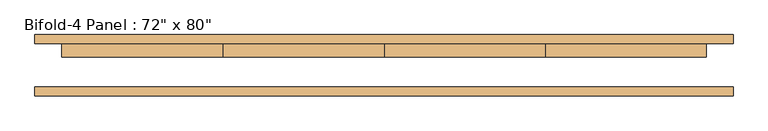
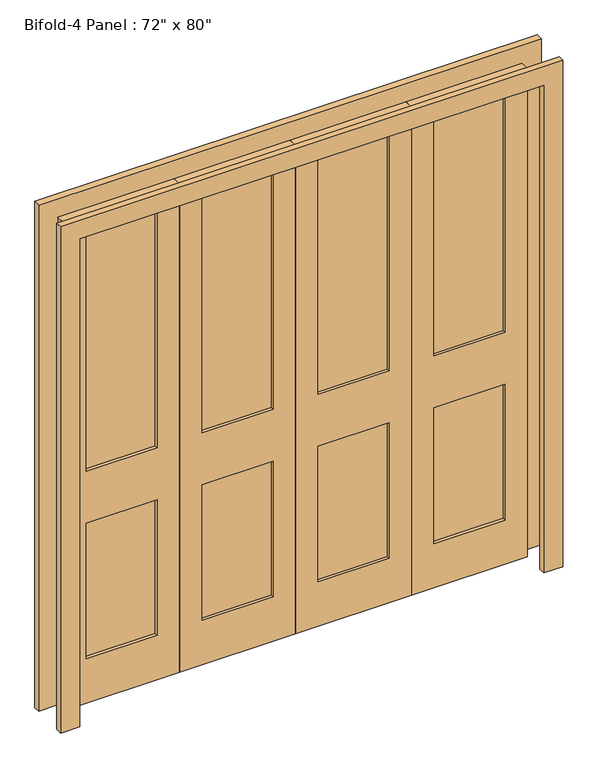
"""IFC4 building model written with IfcOpenShell, lengths in millimetres: door geometry."""

from ifc_helpers import new_model, si_unit, frame, origin, place, context, project, spatial, polyline, outline, extrude, source, transform, mapped, element, save


def door_c95ce901(model_context):
    return source(origin(), model_context, "Body", "SweptSolid", [
        extrude(outline(polyline([(546.1, 49.2125), (825.5, 49.2125), (825.5, 36.5125), (546.1, 36.5125), (546.1, 49.2125)])), frame((0.0, 0.0, 965.2), z_axis=(0.0, 0.0, 1.0), x_axis=(1.0, 0.0, 0.0)), (0.0, 0.0, 1.0), 984.25),
        extrude(outline(polyline([(546.1, 49.2125), (825.5, 49.2125), (825.5, 36.5125), (546.1, 36.5125), (546.1, 49.2125)])), frame((0.0, 0.0, 184.15), z_axis=(0.0, 0.0, 1.0), x_axis=(1.0, 0.0, 0.0)), (0.0, 0.0, 1.0), 565.15),
        extrude(outline(polyline([(88.9, 49.2125), (368.3, 49.2125), (368.3, 36.5125), (88.9, 36.5125), (88.9, 49.2125)])), frame((0.0, 0.0, 965.2), z_axis=(0.0, 0.0, 1.0), x_axis=(1.0, 0.0, 0.0)), (0.0, 0.0, 1.0), 984.25),
        extrude(outline(polyline([(88.9, 49.2125), (368.3, 49.2125), (368.3, 36.5125), (88.9, 36.5125), (88.9, 49.2125)])), frame((0.0, 0.0, 184.15), z_axis=(0.0, 0.0, 1.0), x_axis=(1.0, 0.0, 0.0)), (0.0, 0.0, 1.0), 565.15),
        extrude(outline(polyline([(-368.3, 49.2125), (-88.9, 49.2125), (-88.9, 36.5125), (-368.3, 36.5125), (-368.3, 49.2125)])), frame((0.0, 0.0, 184.15), z_axis=(0.0, 0.0, 1.0), x_axis=(1.0, 0.0, 0.0)), (0.0, 0.0, 1.0), 565.15),
        extrude(outline(polyline([(-368.3, 49.2125), (-88.9, 49.2125), (-88.9, 36.5125), (-368.3, 36.5125), (-368.3, 49.2125)])), frame((0.0, 0.0, 965.2), z_axis=(0.0, 0.0, 1.0), x_axis=(1.0, 0.0, 0.0)), (0.0, 0.0, 1.0), 984.25),
        extrude(outline(polyline([(-825.5, 49.2125), (-546.1, 49.2125), (-546.1, 36.5125), (-825.5, 36.5125), (-825.5, 49.2125)])), frame((0.0, 0.0, 965.2), z_axis=(0.0, 0.0, 1.0), x_axis=(1.0, 0.0, 0.0)), (0.0, 0.0, 1.0), 984.25),
        extrude(outline(polyline([(-825.5, 49.2125), (-546.1, 49.2125), (-546.1, 36.5125), (-825.5, 36.5125), (-825.5, 49.2125)])), frame((0.0, 0.0, 184.15), z_axis=(0.0, 0.0, 1.0), x_axis=(1.0, 0.0, 0.0)), (0.0, 0.0, 1.0), 565.15),
        extrude(outline(polyline([(0.0, 990.6), (2108.2, 990.6), (2108.2, -990.6), (0.0, -990.6), (0.0, -914.4), (2032.0, -914.4), (2032.0, 914.4), (0.0, 914.4), (0.0, 990.6)])), frame((0.0, -87.3125, 0.0), z_axis=(0.0, 1.0, 0.0), x_axis=(0.0, 0.0, 1.0)), (0.0, 0.0, 1.0), 25.4),
        extrude(outline(polyline([(0.0, 990.6), (2108.2, 990.6), (2108.2, -990.6), (0.0, -990.6), (0.0, -914.4), (2032.0, -914.4), (2032.0, 914.4), (0.0, 914.4), (0.0, 990.6)])), frame((0.0, 61.9125, 0.0), z_axis=(0.0, 1.0, 0.0), x_axis=(0.0, 0.0, 1.0)), (0.0, 0.0, 1.0), 25.4),
        extrude(outline(polyline([(0.0, -914.4), (0.0, -457.2), (2032.0, -457.2), (2032.0, -914.4), (0.0, -914.4)]), holes=[polyline([(1949.45, -825.5), (1949.45, -546.1), (965.2, -546.1), (965.2, -825.5), (1949.45, -825.5)]), polyline([(749.3, -825.5), (749.3, -546.1), (184.15, -546.1), (184.15, -825.5), (749.3, -825.5)])]), frame((0.0, 23.8125, 0.0), z_axis=(0.0, 1.0, 0.0), x_axis=(0.0, 0.0, 1.0)), (0.0, 0.0, 1.0), 38.1),
        extrude(outline(polyline([(0.0, -457.2), (0.0, 0.0), (2032.0, 0.0), (2032.0, -457.2), (0.0, -457.2)]), holes=[polyline([(1949.45, -368.3), (1949.45, -88.9), (965.2, -88.9), (965.2, -368.3), (1949.45, -368.3)]), polyline([(749.3, -368.3), (749.3, -88.9), (184.15, -88.9), (184.15, -368.3), (749.3, -368.3)])]), frame((0.0, 23.8125, 0.0), z_axis=(0.0, 1.0, 0.0), x_axis=(0.0, 0.0, 1.0)), (0.0, 0.0, 1.0), 38.1),
        extrude(outline(polyline([(0.0, 0.0), (0.0, 457.2), (2032.0, 457.2), (2032.0, 0.0), (0.0, 0.0)]), holes=[polyline([(1949.45, 88.9), (1949.45, 368.3), (965.2, 368.3), (965.2, 88.9), (1949.45, 88.9)]), polyline([(749.3, 88.9), (749.3, 368.3), (184.15, 368.3), (184.15, 88.9), (749.3, 88.9)])]), frame((0.0, 23.8125, 0.0), z_axis=(0.0, 1.0, 0.0), x_axis=(0.0, 0.0, 1.0)), (0.0, 0.0, 1.0), 38.1),
        extrude(outline(polyline([(0.0, 457.2), (0.0, 914.4), (2032.0, 914.4), (2032.0, 457.2), (0.0, 457.2)]), holes=[polyline([(1949.45, 546.1), (1949.45, 825.5), (965.2, 825.5), (965.2, 546.1), (1949.45, 546.1)]), polyline([(749.3, 546.1), (749.3, 825.5), (184.15, 825.5), (184.15, 546.1), (749.3, 546.1)])]), frame((0.0, 23.8125, 0.0), z_axis=(0.0, 1.0, 0.0), x_axis=(0.0, 0.0, 1.0)), (0.0, 0.0, 1.0), 38.1),
    ])


if __name__ == "__main__":
    model = new_model("IFC4")
    model_context = context("Model", 3, world=origin())
    ifc_project = project(units=[si_unit("LENGTHUNIT", "METRE", prefix="MILLI")], contexts=[model_context])
    site = spatial("IfcSite", under=ifc_project)
    building = spatial("IfcBuilding", under=site)
    placement = place(None, origin())
    door_shape = door_c95ce901(model_context)
    element("IfcDoor", 1, ObjectType="Bifold-4 Panel : 72\" x 80\"", at=placement, inside=building, context=model_context, shape_type="MappedRepresentation", body=[
        mapped(door_shape, transform((0.0, 0.0, 0.0), x_axis=(1.0, 0.0, 0.0), y_axis=(0.0, 1.0, 0.0), z_axis=(0.0, 0.0, 1.0))),
    ])
    save(model, "model.ifc")
